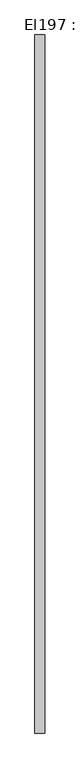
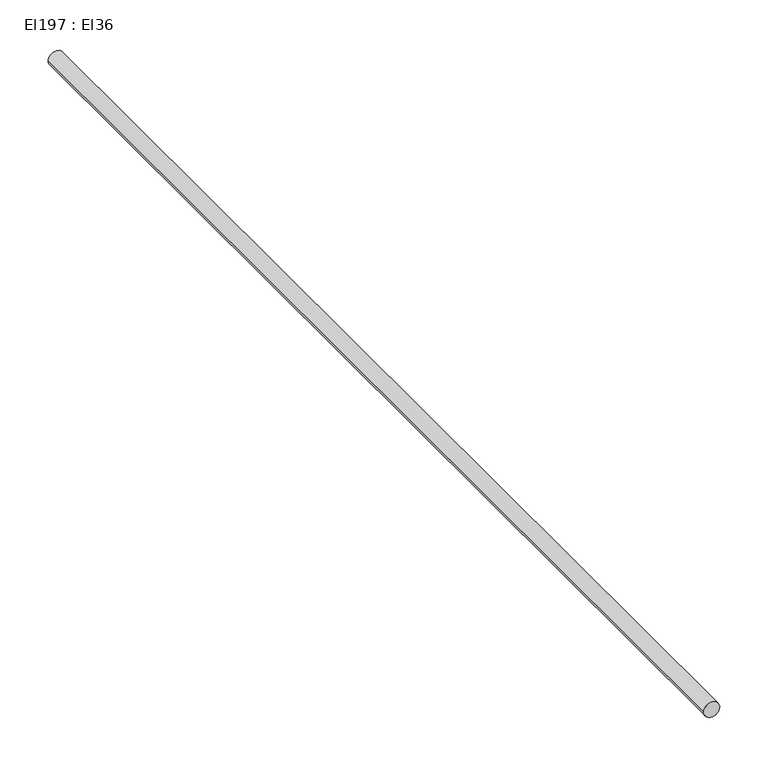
"""IFC4 building model written with IfcOpenShell, lengths in millimetres: cable carrier segment geometry, El197 : El36."""

from ifc_helpers import new_model, si_unit, point, frame, frame_2d, origin, place, context, project, spatial, circle_curve, trimmed, segment, composite_curve, outline, extrude, source, transform, mapped, element, save


def el197_el36_59999477(model_context):
    return source(origin(), model_context, "Body", "SweptSolid", [
        extrude(outline(composite_curve([segment(trimmed(circle_curve(frame_2d((1800.0, 5364.4746511)), 9.5), [point((1800.0, 5354.9746511))], [point((1800.0, 5373.9746511))], False, "CARTESIAN"), True, "CONTINUOUS"), segment(trimmed(circle_curve(frame_2d((1800.0, 5364.4746511)), 9.5), [point((1800.0, 5373.9746511))], [point((1800.0, 5354.9746511))], False, "CARTESIAN"), True, "CONTINUOUS")], self_intersect=False)), frame((0.0, 8489.3241745, 0.0), z_axis=(0.0, 1.0, 0.0), x_axis=(0.0, 0.0, 1.0)), (0.0, 0.0, 1.0), 1358.18),
    ])


if __name__ == "__main__":
    model = new_model("IFC4")
    model_context = context("Model", 3, world=origin())
    ifc_project = project(units=[si_unit("LENGTHUNIT", "METRE", prefix="MILLI")], contexts=[model_context])
    site = spatial("IfcSite", under=ifc_project)
    building = spatial("IfcBuilding", under=site)
    placement = place(None, origin())
    el197_el36_shape = el197_el36_59999477(model_context)
    element("IfcCableCarrierSegment", 1, ObjectType="El197 : El36", at=placement, inside=building, context=model_context, shape_type="MappedRepresentation", body=[
        mapped(el197_el36_shape, transform((0.0, 0.0, 0.0), x_axis=(1.0, 0.0, 0.0), y_axis=(0.0, 1.0, 0.0), z_axis=(0.0, 0.0, 1.0))),
    ])
    save(model, "model.ifc")
